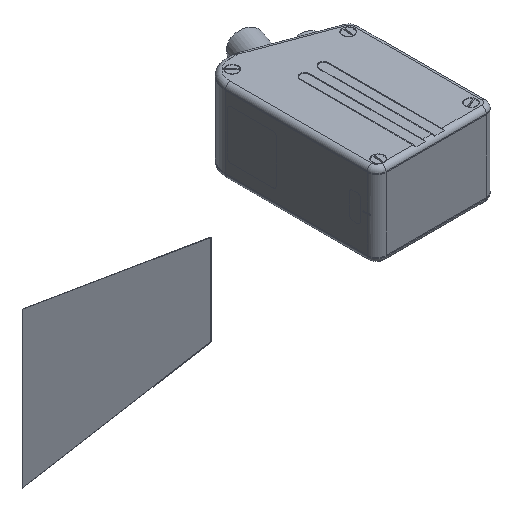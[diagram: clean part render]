
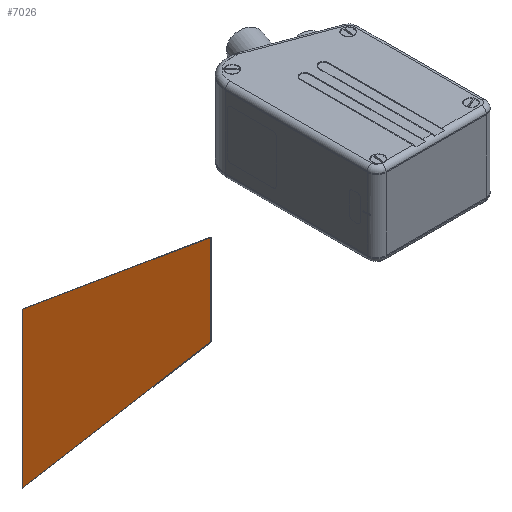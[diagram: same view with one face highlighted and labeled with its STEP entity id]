
A CAD part, isometric view. The second image highlights one B-rep face of the part: STEP entity #7026.
In plain terms, the highlighted planar face has unit normal (0, -1, 0) as drawn and (0, 0, -1) by its records, which use the part's own axes.
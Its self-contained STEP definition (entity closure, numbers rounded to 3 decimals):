
#535 = AXIS2_PLACEMENT_3D ( 'NONE', #28886, #25970, #20542 ) ;
#2101 = EDGE_CURVE ( 'NONE', #34110, #29549, #16742, .T. ) ;
#3017 = LINE ( 'NONE', #19326, #4212 ) ;
#3545 = ORIENTED_EDGE ( 'NONE', *, *, #12331, .F. ) ;
#3627 = CARTESIAN_POINT ( 'NONE',  ( -41., 98.426, 0. ) ) ;
#3962 = VECTOR ( 'NONE', #18362, 1000. ) ;
#4212 = VECTOR ( 'NONE', #22007, 1000. ) ;
#4464 = ORIENTED_EDGE ( 'NONE', *, *, #2101, .F. ) ;
#7026 = ADVANCED_FACE ( 'NONE', ( #29577 ), #23635, .T. ) ;
#7219 = EDGE_CURVE ( 'NONE', #29549, #34517, #22087, .T. ) ;
#7360 = ORIENTED_EDGE ( 'NONE', *, *, #7219, .F. ) ;
#7397 = DIRECTION ( 'NONE',  ( -1., 0., 0. ) ) ;
#8796 = ORIENTED_EDGE ( 'NONE', *, *, #19469, .F. ) ;
#10303 = CARTESIAN_POINT ( 'NONE',  ( 41., 98.426, 0. ) ) ;
#12331 = EDGE_CURVE ( 'NONE', #34517, #15850, #32565, .T. ) ;
#15850 = VERTEX_POINT ( 'NONE', #3627 ) ;
#16742 = LINE ( 'NONE', #19857, #23386 ) ;
#18362 = DIRECTION ( 'NONE',  ( 0.168, 0.986, 0. ) ) ;
#19326 = CARTESIAN_POINT ( 'NONE',  ( -24., -1.574, 0. ) ) ;
#19394 = CARTESIAN_POINT ( 'NONE',  ( 41., 98.426, 0. ) ) ;
#19469 = EDGE_CURVE ( 'NONE', #15850, #34110, #3017, .T. ) ;
#19857 = CARTESIAN_POINT ( 'NONE',  ( 24., -1.574, 0. ) ) ;
#20327 = CARTESIAN_POINT ( 'NONE',  ( -24., -1.574, 0. ) ) ;
#20542 = DIRECTION ( 'NONE',  ( -1., 0., 0. ) ) ;
#22007 = DIRECTION ( 'NONE',  ( 0.168, -0.986, 0. ) ) ;
#22087 = LINE ( 'NONE', #10303, #3962 ) ;
#23386 = VECTOR ( 'NONE', #25518, 1000. ) ;
#23635 = PLANE ( 'NONE',  #535 ) ;
#25518 = DIRECTION ( 'NONE',  ( 1., 0., 0. ) ) ;
#25970 = DIRECTION ( 'NONE',  ( 0., 0., -1. ) ) ;
#28886 = CARTESIAN_POINT ( 'NONE',  ( 0., 0., 0. ) ) ;
#29549 = VERTEX_POINT ( 'NONE', #32597 ) ;
#29577 = FACE_OUTER_BOUND ( 'NONE', #29671, .T. ) ;
#29671 = EDGE_LOOP ( 'NONE', ( #8796, #3545, #7360, #4464 ) ) ;
#31319 = VECTOR ( 'NONE', #7397, 1000. ) ;
#31569 = CARTESIAN_POINT ( 'NONE',  ( -41., 98.426, 0. ) ) ;
#32565 = LINE ( 'NONE', #31569, #31319 ) ;
#32597 = CARTESIAN_POINT ( 'NONE',  ( 24., -1.574, 0. ) ) ;
#34110 = VERTEX_POINT ( 'NONE', #20327 ) ;
#34517 = VERTEX_POINT ( 'NONE', #19394 ) ;
